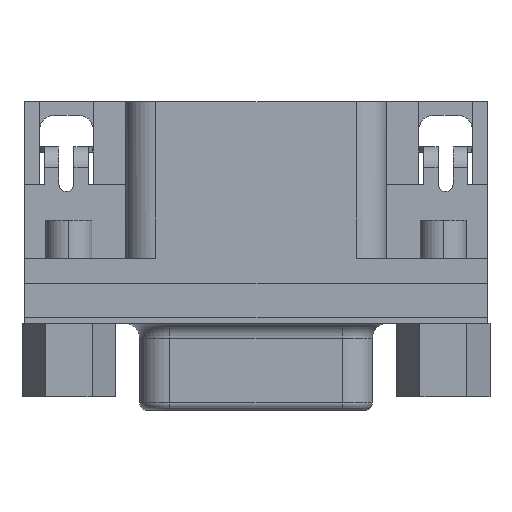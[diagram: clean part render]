
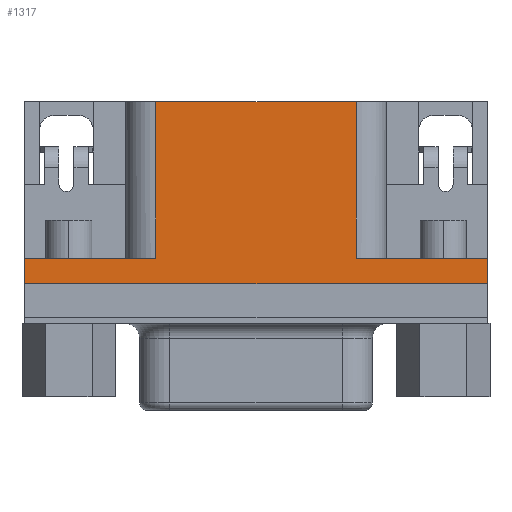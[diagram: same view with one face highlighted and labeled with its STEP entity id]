
A CAD part, top view. The second image highlights one B-rep face of the part: STEP entity #1317.
In plain terms, the highlighted planar face has unit normal (0, 0, 1).
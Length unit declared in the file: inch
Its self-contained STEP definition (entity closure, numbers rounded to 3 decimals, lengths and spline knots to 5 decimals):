
#818 = VERTEX_POINT ( 'NONE', #4845 ) ;
#859 = EDGE_CURVE ( 'NONE', #860, #861, #4904, .T. ) ;
#860 = VERTEX_POINT ( 'NONE', #4900 ) ;
#861 = VERTEX_POINT ( 'NONE', #4899 ) ;
#865 = EDGE_CURVE ( 'NONE', #818, #866, #4893, .T. ) ;
#866 = VERTEX_POINT ( 'NONE', #4889 ) ;
#1041 = EDGE_CURVE ( 'NONE', #1043, #1113, #5252, .T. ) ;
#1043 = VERTEX_POINT ( 'NONE', #5243 ) ;
#1113 = VERTEX_POINT ( 'NONE', #5324 ) ;
#1240 = ORIENTED_EDGE ( 'NONE', *, *, #1241, .T. ) ;
#1241 = EDGE_CURVE ( 'NONE', #1043, #1242, #5540, .T. ) ;
#1242 = VERTEX_POINT ( 'NONE', #5536 ) ;
#1243 = ORIENTED_EDGE ( 'NONE', *, *, #1244, .T. ) ;
#1244 = EDGE_CURVE ( 'NONE', #1242, #866, #5535, .T. ) ;
#1248 = ORIENTED_EDGE ( 'NONE', *, *, #865, .F. ) ;
#1249 = ORIENTED_EDGE ( 'NONE', *, *, #1250, .T. ) ;
#1250 = EDGE_CURVE ( 'NONE', #818, #860, #5531, .T. ) ;
#1251 = ORIENTED_EDGE ( 'NONE', *, *, #859, .T. ) ;
#1317 = ADVANCED_FACE ( 'NONE', ( #5627 ), #5626, .T. ) ;
#1318 = EDGE_LOOP ( 'NONE', ( #1240, #1243, #1248, #1249, #1251, #1493, #1619, #1740 ) ) ;
#1493 = ORIENTED_EDGE ( 'NONE', *, *, #1621, .T. ) ;
#1619 = ORIENTED_EDGE ( 'NONE', *, *, #1739, .T. ) ;
#1620 = VERTEX_POINT ( 'NONE', #6123 ) ;
#1621 = EDGE_CURVE ( 'NONE', #861, #1620, #6122, .T. ) ;
#1739 = EDGE_CURVE ( 'NONE', #1620, #1113, #6297, .T. ) ;
#1740 = ORIENTED_EDGE ( 'NONE', *, *, #1041, .F. ) ;
#4845 = CARTESIAN_POINT ( 'NONE',  ( 0., 0.08858, 0.41732 ) ) ;
#4889 = CARTESIAN_POINT ( 'NONE',  ( 0., 0.15551, 0.41732 ) ) ;
#4890 = DIRECTION ( 'NONE',  ( 0., 1., 0. ) ) ;
#4891 = VECTOR ( 'NONE', #4890, 39.37008 ) ;
#4892 = CARTESIAN_POINT ( 'NONE',  ( 0., 0.15551, 0.41732 ) ) ;
#4893 = LINE ( 'NONE', #4892, #4891 ) ;
#4899 = CARTESIAN_POINT ( 'NONE',  ( 1.21654, 0.15551, 0.41732 ) ) ;
#4900 = CARTESIAN_POINT ( 'NONE',  ( 1.21654, 0.08858, 0.41732 ) ) ;
#4901 = DIRECTION ( 'NONE',  ( 0., 1., 0. ) ) ;
#4902 = VECTOR ( 'NONE', #4901, 39.37008 ) ;
#4903 = CARTESIAN_POINT ( 'NONE',  ( 1.21654, 0.15551, 0.41732 ) ) ;
#4904 = LINE ( 'NONE', #4903, #4902 ) ;
#5243 = CARTESIAN_POINT ( 'NONE',  ( 0.34449, 0.56693, 0.41732 ) ) ;
#5249 = DIRECTION ( 'NONE',  ( 1., 0., 0. ) ) ;
#5250 = VECTOR ( 'NONE', #5249, 39.37008 ) ;
#5251 = CARTESIAN_POINT ( 'NONE',  ( 0.26575, 0.56693, 0.41732 ) ) ;
#5252 = LINE ( 'NONE', #5251, #5250 ) ;
#5324 = CARTESIAN_POINT ( 'NONE',  ( 0.87205, 0.56693, 0.41732 ) ) ;
#5528 = DIRECTION ( 'NONE',  ( 1., 0., 0. ) ) ;
#5529 = VECTOR ( 'NONE', #5528, 39.37008 ) ;
#5530 = CARTESIAN_POINT ( 'NONE',  ( 0.26575, 0.08858, 0.41732 ) ) ;
#5531 = LINE ( 'NONE', #5530, #5529 ) ;
#5532 = DIRECTION ( 'NONE',  ( -1., 0., 0. ) ) ;
#5533 = VECTOR ( 'NONE', #5532, 39.37008 ) ;
#5534 = CARTESIAN_POINT ( 'NONE',  ( 1.21654, 0.15551, 0.41732 ) ) ;
#5535 = LINE ( 'NONE', #5534, #5533 ) ;
#5536 = CARTESIAN_POINT ( 'NONE',  ( 0.34449, 0.15551, 0.41732 ) ) ;
#5537 = DIRECTION ( 'NONE',  ( 0., -1., 0. ) ) ;
#5538 = VECTOR ( 'NONE', #5537, 39.37008 ) ;
#5539 = CARTESIAN_POINT ( 'NONE',  ( 0.34449, 0.09646, 0.41732 ) ) ;
#5540 = LINE ( 'NONE', #5539, #5538 ) ;
#5622 = DIRECTION ( 'NONE',  ( 1., 0., 0. ) ) ;
#5623 = DIRECTION ( 'NONE',  ( 0., 0., 1. ) ) ;
#5624 = CARTESIAN_POINT ( 'NONE',  ( 0.26575, 0.09646, 0.41732 ) ) ;
#5625 = AXIS2_PLACEMENT_3D ( 'NONE', #5624, #5623, #5622 ) ;
#5626 = PLANE ( 'NONE',  #5625 ) ;
#5627 = FACE_OUTER_BOUND ( 'NONE', #1318, .T. ) ;
#6119 = DIRECTION ( 'NONE',  ( -1., 0., 0. ) ) ;
#6120 = VECTOR ( 'NONE', #6119, 39.37008 ) ;
#6121 = CARTESIAN_POINT ( 'NONE',  ( 1.21654, 0.15551, 0.41732 ) ) ;
#6122 = LINE ( 'NONE', #6121, #6120 ) ;
#6123 = CARTESIAN_POINT ( 'NONE',  ( 0.87205, 0.15551, 0.41732 ) ) ;
#6294 = DIRECTION ( 'NONE',  ( 0., 1., 0. ) ) ;
#6295 = VECTOR ( 'NONE', #6294, 39.37008 ) ;
#6296 = CARTESIAN_POINT ( 'NONE',  ( 0.87205, 0.09646, 0.41732 ) ) ;
#6297 = LINE ( 'NONE', #6296, #6295 ) ;
